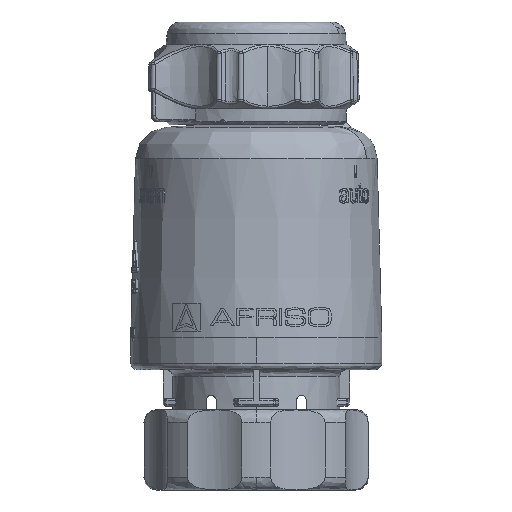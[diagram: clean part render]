
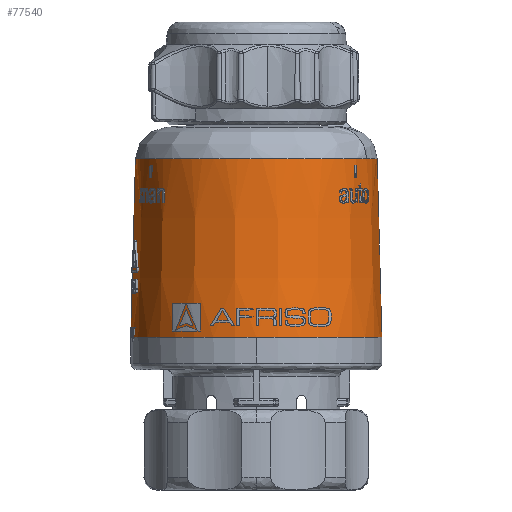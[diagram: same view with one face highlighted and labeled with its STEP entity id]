
A CAD part, front view. The second image highlights one B-rep face of the part: STEP entity #77540.
In plain terms, the highlighted conical face has half-angle 1.5 degrees and reference radius 19.5 mm.
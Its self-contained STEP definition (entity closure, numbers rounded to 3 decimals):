
#3317 = CARTESIAN_POINT ( 'NONE',  ( 5.279, 18.064, 32.788 ) ) ;
#3711 = CARTESIAN_POINT ( 'NONE',  ( 10.133, -15.945, 32.788 ) ) ;
#5036 = CARTESIAN_POINT ( 'NONE',  ( 11.484, 15.001, 32.788 ) ) ;
#5502 = EDGE_CURVE ( 'NONE', #69607, #17841, #33673, .T. ) ;
#7035 = EDGE_CURVE ( 'NONE', #50824, #17841, #48701, .T. ) ;
#7946 = DIRECTION ( 'NONE',  ( 0., -0.026, -1. ) ) ;
#8830 = CARTESIAN_POINT ( 'NONE',  ( 0., -19.5, 5. ) ) ;
#9616 = EDGE_CURVE ( 'NONE', #68855, #51632, #42332, .T. ) ;
#10490 = CARTESIAN_POINT ( 'NONE',  ( 4.247, -18.409, 32.788 ) ) ;
#10935 = CARTESIAN_POINT ( 'NONE',  ( 2.124, -18.772, 32.788 ) ) ;
#11431 = CARTESIAN_POINT ( 'NONE',  ( 2.67, 18.629, 32.788 ) ) ;
#11798 = CARTESIAN_POINT ( 'NONE',  ( 18.89, 0.253, 32.788 ) ) ;
#11840 = CARTESIAN_POINT ( 'NONE',  ( 0., 0., 5. ) ) ;
#16459 = VECTOR ( 'NONE', #70404, 1000. ) ;
#16860 = DIRECTION ( 'NONE',  ( 1., 0., 0. ) ) ;
#17065 = VECTOR ( 'NONE', #7946, 1000. ) ;
#17841 = VERTEX_POINT ( 'NONE', #83714 ) ;
#18214 = CARTESIAN_POINT ( 'NONE',  ( 1.335, 18.772, 32.788 ) ) ;
#20690 = DIRECTION ( 'NONE',  ( 1., 0., 0. ) ) ;
#20874 = EDGE_CURVE ( 'NONE', #68855, #41452, #82185, .T. ) ;
#22747 = AXIS2_PLACEMENT_3D ( 'NONE', #11840, #85491, #16860 ) ;
#24607 = ORIENTED_EDGE ( 'NONE', *, *, #7035, .F. ) ;
#24924 = CARTESIAN_POINT ( 'NONE',  ( 17.729, 6.527, 32.788 ) ) ;
#25368 = CARTESIAN_POINT ( 'NONE',  ( 17.897, -6.05, 32.788 ) ) ;
#26214 = ORIENTED_EDGE ( 'NONE', *, *, #9616, .T. ) ;
#30803 = CARTESIAN_POINT ( 'NONE',  ( 17.092, -8.048, 32.788 ) ) ;
#30865 = CARTESIAN_POINT ( 'NONE',  ( 6.553, 17.642, 32.788 ) ) ;
#31035 = CIRCLE ( 'NONE', #55596, 19.5 ) ;
#32107 = CARTESIAN_POINT ( 'NONE',  ( 18.356, 4.467, 32.788 ) ) ;
#33279 = CARTESIAN_POINT ( 'NONE',  ( 19.5, 0., 5. ) ) ;
#33673 = LINE ( 'NONE', #8830, #17065 ) ;
#37546 = CARTESIAN_POINT ( 'NONE',  ( 15.823, 10.323, 32.788 ) ) ;
#39305 = FACE_OUTER_BOUND ( 'NONE', #74194, .T. ) ;
#41452 = VERTEX_POINT ( 'NONE', #53977 ) ;
#41800 = CARTESIAN_POINT ( 'NONE',  ( 0., -18.773, 32.788 ) ) ;
#42011 = CARTESIAN_POINT ( 'NONE',  ( 0., 18.773, 32.788 ) ) ;
#42332 = B_SPLINE_CURVE_WITH_KNOTS ( 'NONE', 3,
 ( #66125, #18214, #11431, #3317, #30865, #82650 ),
 .UNSPECIFIED., .F., .F.,
 ( 4, 2, 4 ),
 ( 0.75, 0.784, 0.818 ),
 .UNSPECIFIED. ) ;
#42574 = EDGE_CURVE ( 'NONE', #51632, #69607, #48671, .T. ) ;
#42766 = CARTESIAN_POINT ( 'NONE',  ( 0., 19.5, 5. ) ) ;
#42991 = CONICAL_SURFACE ( 'NONE', #77709, 19.5, 0.026 ) ;
#44659 = CARTESIAN_POINT ( 'NONE',  ( 7.768, 17.09, 32.788 ) ) ;
#44805 = CARTESIAN_POINT ( 'NONE',  ( 7.768, 17.09, 32.788 ) ) ;
#46576 = CARTESIAN_POINT ( 'NONE',  ( 13.438, -13.279, 32.788 ) ) ;
#48441 = ORIENTED_EDGE ( 'NONE', *, *, #20874, .F. ) ;
#48671 = B_SPLINE_CURVE_WITH_KNOTS ( 'NONE', 3,
 ( #44805, #79630, #5036, #73724, #37546, #24924, #32107, #11798, #51633, #25368, #30803, #52533, #46576, #3711, #72408, #10490, #10935, #73289 ),
 .UNSPECIFIED., .F., .F.,
 ( 4, 2, 2, 2, 2, 2, 2, 2, 4 ),
 ( 0.818, 0.872, 0.926, 0.98, 1.034, 1.088, 1.142, 1.196, 1.25 ),
 .UNSPECIFIED. ) ;
#48701 = CIRCLE ( 'NONE', #22747, 19.5 ) ;
#50824 = VERTEX_POINT ( 'NONE', #33279 ) ;
#51632 = VERTEX_POINT ( 'NONE', #44659 ) ;
#51633 = CARTESIAN_POINT ( 'NONE',  ( 18.796, -1.899, 32.788 ) ) ;
#51887 = ORIENTED_EDGE ( 'NONE', *, *, #72768, .F. ) ;
#52533 = CARTESIAN_POINT ( 'NONE',  ( 14.863, -11.662, 32.788 ) ) ;
#53428 = DIRECTION ( 'NONE',  ( 0., 1., 0. ) ) ;
#53977 = CARTESIAN_POINT ( 'NONE',  ( 0., 19.5, 5. ) ) ;
#55596 = AXIS2_PLACEMENT_3D ( 'NONE', #60940, #89331, #20690 ) ;
#60940 = CARTESIAN_POINT ( 'NONE',  ( 0., 0., 5. ) ) ;
#61047 = CARTESIAN_POINT ( 'NONE',  ( 0., 0., 5. ) ) ;
#66125 = CARTESIAN_POINT ( 'NONE',  ( 0., 18.773, 32.788 ) ) ;
#68855 = VERTEX_POINT ( 'NONE', #42011 ) ;
#69413 = ORIENTED_EDGE ( 'NONE', *, *, #5502, .T. ) ;
#69607 = VERTEX_POINT ( 'NONE', #41800 ) ;
#70404 = DIRECTION ( 'NONE',  ( 0., 0.026, -1. ) ) ;
#72408 = CARTESIAN_POINT ( 'NONE',  ( 8.252, -16.995, 32.788 ) ) ;
#72768 = EDGE_CURVE ( 'NONE', #41452, #50824, #31035, .T. ) ;
#73289 = CARTESIAN_POINT ( 'NONE',  ( 0., -18.773, 32.788 ) ) ;
#73724 = CARTESIAN_POINT ( 'NONE',  ( 14.545, 12.057, 32.788 ) ) ;
#74161 = DIRECTION ( 'NONE',  ( 0., 0., -1. ) ) ;
#74194 = EDGE_LOOP ( 'NONE', ( #26214, #84463, #69413, #24607, #51887, #48441 ) ) ;
#77540 = ADVANCED_FACE ( 'NONE', ( #39305 ), #42991, .T. ) ;
#77709 = AXIS2_PLACEMENT_3D ( 'NONE', #61047, #74161, #53428 ) ;
#79630 = CARTESIAN_POINT ( 'NONE',  ( 9.701, 16.211, 32.788 ) ) ;
#82185 = LINE ( 'NONE', #42766, #16459 ) ;
#82650 = CARTESIAN_POINT ( 'NONE',  ( 7.768, 17.09, 32.788 ) ) ;
#83714 = CARTESIAN_POINT ( 'NONE',  ( 0., -19.5, 5. ) ) ;
#84463 = ORIENTED_EDGE ( 'NONE', *, *, #42574, .T. ) ;
#85491 = DIRECTION ( 'NONE',  ( 0., 0., -1. ) ) ;
#89331 = DIRECTION ( 'NONE',  ( 0., 0., -1. ) ) ;
